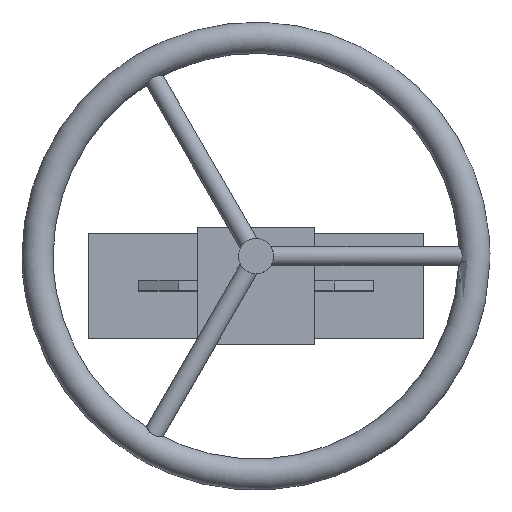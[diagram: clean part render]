
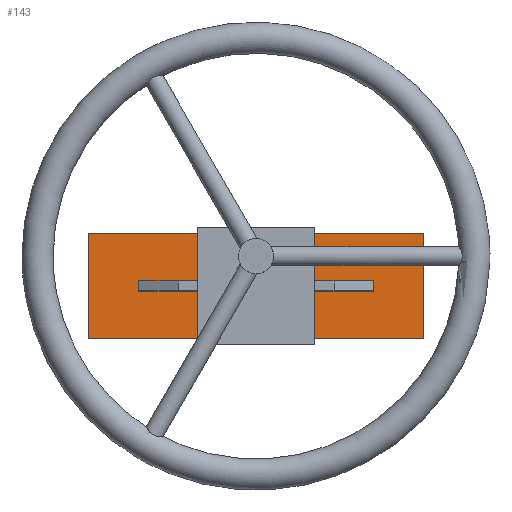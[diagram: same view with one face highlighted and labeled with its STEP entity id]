
A CAD part, top view. The second image highlights one B-rep face of the part: STEP entity #143.
In plain terms, the highlighted planar face has unit normal (0, 0, 1).
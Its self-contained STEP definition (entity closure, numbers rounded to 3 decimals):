
#143=ADVANCED_FACE('',(#968,#970,#972),#974,.T.);
#968=FACE_BOUND('',#969,.T.);
#969=EDGE_LOOP('',(#1689,#1690,#1691,#1692,#1693,#1694,#1695,#1696));
#970=FACE_BOUND('',#971,.T.);
#971=EDGE_LOOP('',(#1697,#1698,#1699,#1700));
#972=FACE_BOUND('',#973,.T.);
#973=EDGE_LOOP('',(#1701));
#974=PLANE('',#975);
#975=AXIS2_PLACEMENT_3D('',#976,#977,#978);
#976=CARTESIAN_POINT('',(0.,0.,135.));
#977=DIRECTION('',(0.,0.,1.));
#978=DIRECTION('',(1.,0.,0.));
#1689=ORIENTED_EDGE('',*,*,#2119,.F.);
#1690=ORIENTED_EDGE('',*,*,#2120,.T.);
#1691=ORIENTED_EDGE('',*,*,#2121,.T.);
#1692=ORIENTED_EDGE('',*,*,#2122,.T.);
#1693=ORIENTED_EDGE('',*,*,#2123,.F.);
#1694=ORIENTED_EDGE('',*,*,#2124,.T.);
#1695=ORIENTED_EDGE('',*,*,#2125,.T.);
#1696=ORIENTED_EDGE('',*,*,#2126,.T.);
#1697=ORIENTED_EDGE('',*,*,#2127,.F.);
#1698=ORIENTED_EDGE('',*,*,#2109,.F.);
#1699=ORIENTED_EDGE('',*,*,#2128,.F.);
#1700=ORIENTED_EDGE('',*,*,#2085,.F.);
#1701=ORIENTED_EDGE('',*,*,#2102,.F.);
#2085=EDGE_CURVE('',#2310,#2312,#2313,.T.);
#2102=EDGE_CURVE('',#2343,#2343,#2344,.F.);
#2109=EDGE_CURVE('',#2354,#2356,#2357,.F.);
#2119=EDGE_CURVE('',#2371,#2372,#2373,.T.);
#2120=EDGE_CURVE('',#2371,#2374,#2375,.T.);
#2121=EDGE_CURVE('',#2374,#2376,#2377,.T.);
#2122=EDGE_CURVE('',#2376,#2378,#2379,.T.);
#2123=EDGE_CURVE('',#2380,#2378,#2381,.T.);
#2124=EDGE_CURVE('',#2380,#2382,#2383,.T.);
#2125=EDGE_CURVE('',#2382,#2384,#2385,.T.);
#2126=EDGE_CURVE('',#2384,#2372,#2386,.T.);
#2127=EDGE_CURVE('',#2356,#2310,#2387,.T.);
#2128=EDGE_CURVE('',#2312,#2354,#2388,.T.);
#2310=VERTEX_POINT('',#2696);
#2312=VERTEX_POINT('',#2700);
#2313=LINE('',#2701,#2702);
#2343=VERTEX_POINT('',#2768);
#2344=CIRCLE('',#2769,9.);
#2354=VERTEX_POINT('',#2792);
#2356=VERTEX_POINT('',#2796);
#2357=LINE('',#2797,#2798);
#2371=VERTEX_POINT('',#2831);
#2372=VERTEX_POINT('',#2832);
#2373=LINE('',#2833,#2834);
#2374=VERTEX_POINT('',#2836);
#2375=LINE('',#2837,#2838);
#2376=VERTEX_POINT('',#2840);
#2377=LINE('',#2841,#2842);
#2378=VERTEX_POINT('',#2844);
#2379=LINE('',#2845,#2846);
#2380=VERTEX_POINT('',#2848);
#2381=LINE('',#2849,#2850);
#2382=VERTEX_POINT('',#2852);
#2383=LINE('',#2853,#2854);
#2384=VERTEX_POINT('',#2856);
#2385=LINE('',#2857,#2858);
#2386=LINE('',#2860,#2861);
#2387=LINE('',#2863,#2864);
#2388=LINE('',#2866,#2867);
#2696=CARTESIAN_POINT('',(-60.,-2.5,135.));
#2700=CARTESIAN_POINT('',(60.,-2.5,135.));
#2701=CARTESIAN_POINT('',(-60.,-2.5,135.));
#2702=VECTOR('',#2703,1.);
#2703=DIRECTION('',(1.,0.,0.));
#2768=CARTESIAN_POINT('',(0.,24.,135.));
#2769=AXIS2_PLACEMENT_3D('',#2770,#2771,#2772);
#2770=CARTESIAN_POINT('',(0.,15.,135.));
#2771=DIRECTION('',(0.,-0.,-1.));
#2772=DIRECTION('',(0.,1.,0.));
#2792=CARTESIAN_POINT('',(60.,2.5,135.));
#2796=CARTESIAN_POINT('',(-60.,2.5,135.));
#2797=CARTESIAN_POINT('',(-60.,2.5,135.));
#2798=VECTOR('',#2799,1.);
#2799=DIRECTION('',(1.,0.,0.));
#2831=CARTESIAN_POINT('',(30.,-27.,135.));
#2832=CARTESIAN_POINT('',(-30.,-27.,135.));
#2833=CARTESIAN_POINT('',(30.,-27.,135.));
#2834=VECTOR('',#2835,1.);
#2835=DIRECTION('',(-1.,0.,0.));
#2836=CARTESIAN_POINT('',(86.,-27.,135.));
#2837=CARTESIAN_POINT('',(30.,-27.,135.));
#2838=VECTOR('',#2839,1.);
#2839=DIRECTION('',(1.,0.,0.));
#2840=CARTESIAN_POINT('',(86.,27.,135.));
#2841=CARTESIAN_POINT('',(86.,-27.,135.));
#2842=VECTOR('',#2843,1.);
#2843=DIRECTION('',(0.,1.,0.));
#2844=CARTESIAN_POINT('',(30.,27.,135.));
#2845=CARTESIAN_POINT('',(86.,27.,135.));
#2846=VECTOR('',#2847,1.);
#2847=DIRECTION('',(-1.,0.,0.));
#2848=CARTESIAN_POINT('',(-30.,27.,135.));
#2849=CARTESIAN_POINT('',(-30.,27.,135.));
#2850=VECTOR('',#2851,1.);
#2851=DIRECTION('',(1.,0.,0.));
#2852=CARTESIAN_POINT('',(-86.,27.,135.));
#2853=CARTESIAN_POINT('',(-30.,27.,135.));
#2854=VECTOR('',#2855,1.);
#2855=DIRECTION('',(-1.,0.,0.));
#2856=CARTESIAN_POINT('',(-86.,-27.,135.));
#2857=CARTESIAN_POINT('',(-86.,27.,135.));
#2858=VECTOR('',#2859,1.);
#2859=DIRECTION('',(0.,-1.,0.));
#2860=CARTESIAN_POINT('',(-86.,-27.,135.));
#2861=VECTOR('',#2862,1.);
#2862=DIRECTION('',(1.,0.,0.));
#2863=CARTESIAN_POINT('',(-60.,2.5,135.));
#2864=VECTOR('',#2865,1.);
#2865=DIRECTION('',(0.,-1.,0.));
#2866=CARTESIAN_POINT('',(60.,-2.5,135.));
#2867=VECTOR('',#2868,1.);
#2868=DIRECTION('',(0.,1.,0.));
